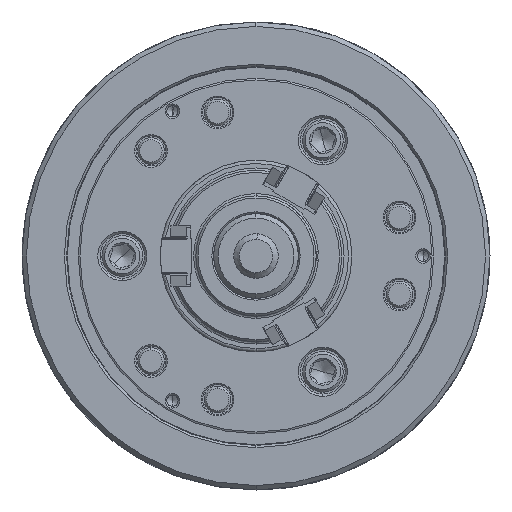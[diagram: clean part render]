
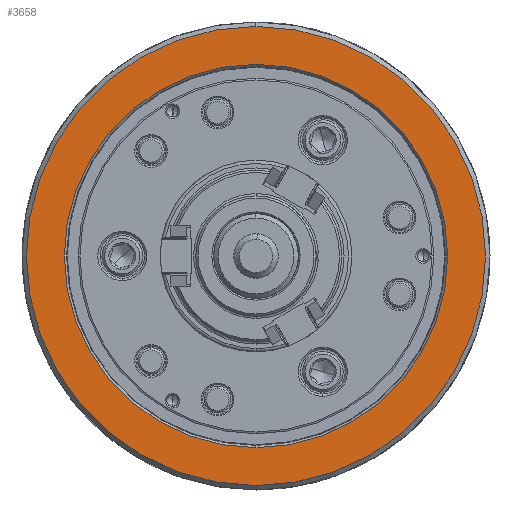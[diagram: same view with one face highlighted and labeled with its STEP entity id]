
A CAD part, left-side view. The second image highlights one B-rep face of the part: STEP entity #3658.
In plain terms, the highlighted planar face has unit normal (-1, 0, 0).
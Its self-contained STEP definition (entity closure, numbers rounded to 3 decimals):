
#1143 = ORIENTED_EDGE ( 'NONE', *, *, #23006, .F. ) ;
#1443 = DIRECTION ( 'NONE',  ( 1., 0., 0. ) ) ;
#2444 = CIRCLE ( 'NONE', #50548, 103. ) ;
#3252 = FACE_BOUND ( 'NONE', #75756, .T. ) ;
#3658 = ADVANCED_FACE ( 'NONE', ( #98029, #3252 ), #90226, .F. ) ;
#13295 = DIRECTION ( 'NONE',  ( 0., 0., -1. ) ) ;
#14289 = DIRECTION ( 'NONE',  ( 1., 0., 0. ) ) ;
#19685 = CARTESIAN_POINT ( 'NONE',  ( -85., 0., 0. ) ) ;
#22184 = CARTESIAN_POINT ( 'NONE',  ( -85., -103., 0. ) ) ;
#23006 = EDGE_CURVE ( 'NONE', #62050, #86360, #2444, .T. ) ;
#27937 = EDGE_CURVE ( 'NONE', #83764, #105650, #104712, .T. ) ;
#32108 = AXIS2_PLACEMENT_3D ( 'NONE', #40454, #14289, #50524 ) ;
#32166 = CIRCLE ( 'NONE', #60710, 103. ) ;
#34346 = DIRECTION ( 'NONE',  ( 0., 0., -1. ) ) ;
#39555 = CARTESIAN_POINT ( 'NONE',  ( -85., 0., 0. ) ) ;
#40100 = DIRECTION ( 'NONE',  ( 0., 0., -1. ) ) ;
#40454 = CARTESIAN_POINT ( 'NONE',  ( -85., 0., 0. ) ) ;
#44167 = EDGE_CURVE ( 'NONE', #86360, #62050, #32166, .T. ) ;
#50524 = DIRECTION ( 'NONE',  ( 0., 0., -1. ) ) ;
#50548 = AXIS2_PLACEMENT_3D ( 'NONE', #86228, #1443, #34346 ) ;
#50768 = AXIS2_PLACEMENT_3D ( 'NONE', #22184, #70756, #13295 ) ;
#51946 = CARTESIAN_POINT ( 'NONE',  ( -85., 0., -103. ) ) ;
#54868 = CARTESIAN_POINT ( 'NONE',  ( -85., 0., 103. ) ) ;
#55995 = EDGE_LOOP ( 'NONE', ( #99305, #1143 ) ) ;
#60262 = AXIS2_PLACEMENT_3D ( 'NONE', #39555, #100361, #40100 ) ;
#60710 = AXIS2_PLACEMENT_3D ( 'NONE', #19685, #103367, #68824 ) ;
#61645 = CARTESIAN_POINT ( 'NONE',  ( -85., 0., 86. ) ) ;
#62050 = VERTEX_POINT ( 'NONE', #54868 ) ;
#68824 = DIRECTION ( 'NONE',  ( 0., 0., -1. ) ) ;
#70756 = DIRECTION ( 'NONE',  ( 1., 0., 0. ) ) ;
#75756 = EDGE_LOOP ( 'NONE', ( #102076, #99554 ) ) ;
#80213 = CIRCLE ( 'NONE', #32108, 86. ) ;
#83764 = VERTEX_POINT ( 'NONE', #86945 ) ;
#86228 = CARTESIAN_POINT ( 'NONE',  ( -85., 0., 0. ) ) ;
#86360 = VERTEX_POINT ( 'NONE', #51946 ) ;
#86945 = CARTESIAN_POINT ( 'NONE',  ( -85., 0., -86. ) ) ;
#90226 = PLANE ( 'NONE',  #50768 ) ;
#90263 = EDGE_CURVE ( 'NONE', #105650, #83764, #80213, .T. ) ;
#98029 = FACE_OUTER_BOUND ( 'NONE', #55995, .T. ) ;
#99305 = ORIENTED_EDGE ( 'NONE', *, *, #44167, .F. ) ;
#99554 = ORIENTED_EDGE ( 'NONE', *, *, #27937, .T. ) ;
#100361 = DIRECTION ( 'NONE',  ( 1., 0., 0. ) ) ;
#102076 = ORIENTED_EDGE ( 'NONE', *, *, #90263, .T. ) ;
#103367 = DIRECTION ( 'NONE',  ( 1., 0., 0. ) ) ;
#104712 = CIRCLE ( 'NONE', #60262, 86. ) ;
#105650 = VERTEX_POINT ( 'NONE', #61645 ) ;
